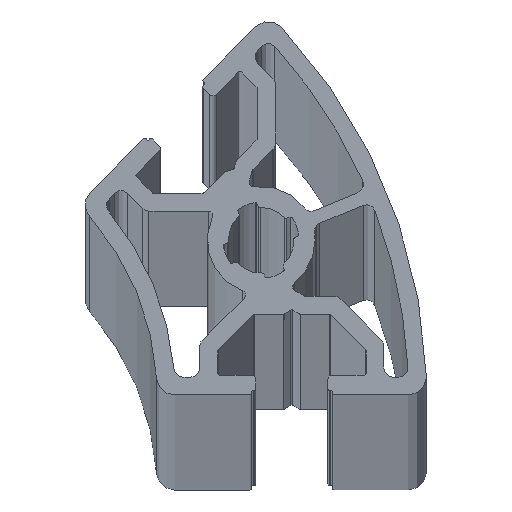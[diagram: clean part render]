
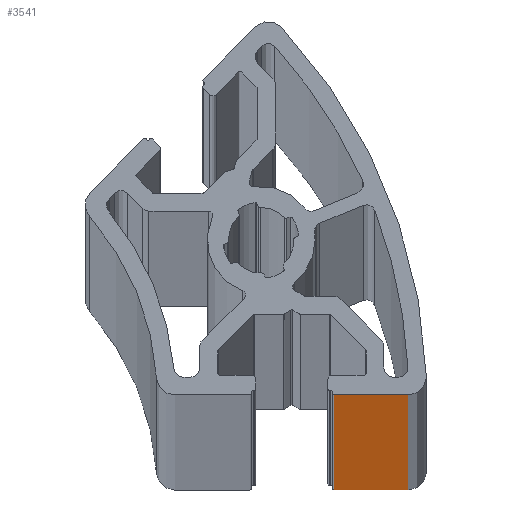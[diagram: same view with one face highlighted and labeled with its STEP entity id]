
A CAD part, top view. The second image highlights one B-rep face of the part: STEP entity #3541.
In plain terms, the highlighted planar face has unit normal (0, -1, 0).
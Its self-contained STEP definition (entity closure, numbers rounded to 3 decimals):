
#159 = EDGE_CURVE ( 'NONE', #2823, #760, #5454, .T. ) ;
#353 = EDGE_LOOP ( 'NONE', ( #5866, #2851, #1759, #3718 ) ) ;
#375 = CARTESIAN_POINT ( 'NONE',  ( 8.125, -17.221, -6060. ) ) ;
#685 = LINE ( 'NONE', #2526, #5825 ) ;
#760 = VERTEX_POINT ( 'NONE', #1730 ) ;
#904 = DIRECTION ( 'NONE',  ( 1., 0., 0. ) ) ;
#1022 = CARTESIAN_POINT ( 'NONE',  ( 8.125, -17.221, -6060. ) ) ;
#1169 = DIRECTION ( 'NONE',  ( 0., -1., 0. ) ) ;
#1426 = DIRECTION ( 'NONE',  ( 1., 0., 0. ) ) ;
#1507 = VERTEX_POINT ( 'NONE', #4614 ) ;
#1644 = DIRECTION ( 'NONE',  ( 1., 0., 0. ) ) ;
#1730 = CARTESIAN_POINT ( 'NONE',  ( 16.391, -17.221, 0. ) ) ;
#1759 = ORIENTED_EDGE ( 'NONE', *, *, #3013, .T. ) ;
#2209 = VECTOR ( 'NONE', #904, 1000. ) ;
#2526 = CARTESIAN_POINT ( 'NONE',  ( 16.391, -17.221, -6060. ) ) ;
#2563 = FACE_OUTER_BOUND ( 'NONE', #353, .T. ) ;
#2584 = EDGE_CURVE ( 'NONE', #3377, #760, #685, .T. ) ;
#2823 = VERTEX_POINT ( 'NONE', #3128 ) ;
#2851 = ORIENTED_EDGE ( 'NONE', *, *, #3307, .F. ) ;
#2928 = AXIS2_PLACEMENT_3D ( 'NONE', #1022, #1169, #1644 ) ;
#3013 = EDGE_CURVE ( 'NONE', #1507, #3377, #3685, .T. ) ;
#3128 = CARTESIAN_POINT ( 'NONE',  ( 8.125, -17.221, 0. ) ) ;
#3208 = VECTOR ( 'NONE', #1426, 1000. ) ;
#3266 = CARTESIAN_POINT ( 'NONE',  ( 16.391, -17.221, -6060. ) ) ;
#3307 = EDGE_CURVE ( 'NONE', #1507, #2823, #4470, .T. ) ;
#3377 = VERTEX_POINT ( 'NONE', #3266 ) ;
#3436 = PLANE ( 'NONE',  #2928 ) ;
#3541 = ADVANCED_FACE ( 'NONE', ( #2563 ), #3436, .T. ) ;
#3593 = CARTESIAN_POINT ( 'NONE',  ( 8.125, -17.221, 0. ) ) ;
#3683 = VECTOR ( 'NONE', #4554, 1000. ) ;
#3685 = LINE ( 'NONE', #4169, #3208 ) ;
#3718 = ORIENTED_EDGE ( 'NONE', *, *, #2584, .T. ) ;
#4169 = CARTESIAN_POINT ( 'NONE',  ( 8.125, -17.221, -6060. ) ) ;
#4308 = DIRECTION ( 'NONE',  ( 0., 0., 1. ) ) ;
#4470 = LINE ( 'NONE', #375, #3683 ) ;
#4554 = DIRECTION ( 'NONE',  ( 0., 0., 1. ) ) ;
#4614 = CARTESIAN_POINT ( 'NONE',  ( 8.125, -17.221, -6060. ) ) ;
#5454 = LINE ( 'NONE', #3593, #2209 ) ;
#5825 = VECTOR ( 'NONE', #4308, 1000. ) ;
#5866 = ORIENTED_EDGE ( 'NONE', *, *, #159, .F. ) ;
